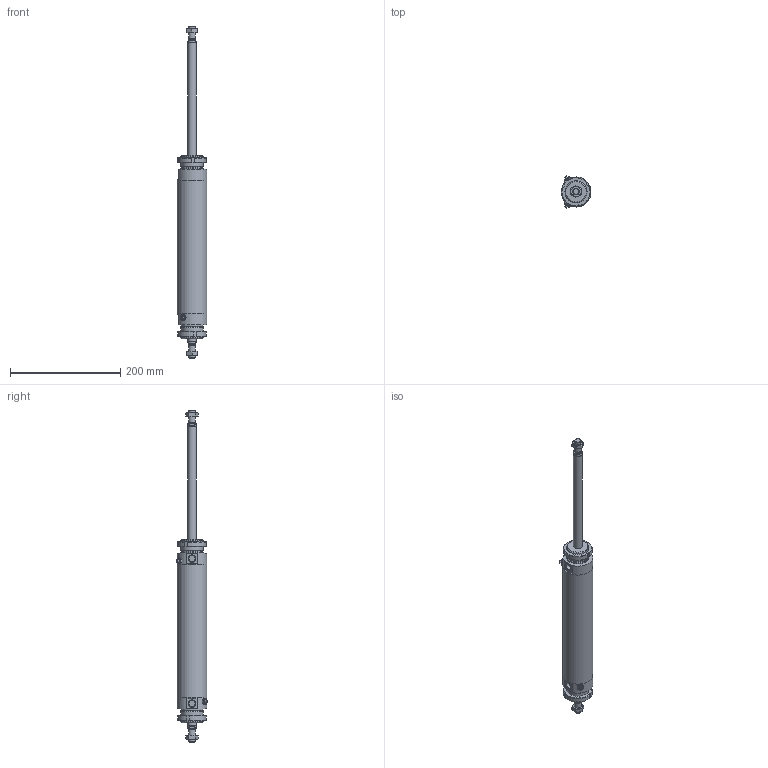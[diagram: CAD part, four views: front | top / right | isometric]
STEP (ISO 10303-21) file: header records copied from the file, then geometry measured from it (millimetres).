
FILE_DESCRIPTION(/* description */ (''),/* implementation_level */ '2;1');
FILE_NAME(/* name */ 'I:\Area Tecnica\Documenti\A-Manieri\_Inventor\12X\12X#S_###_####_#_#\12XDS_050_0200_#_#.stp',/* time_stamp */ '2015-05-13T08:20:38+02:00',/* author */ ('maniean1'),/* organization */ ('Pneumax S.p.A.'),/* preprocessor_version */ 'ST-DEVELOPER v15.2',/* originating_system */ 'Autodesk Inventor 2014',/* authorisation */ '');
FILE_SCHEMA (('AUTOMOTIVE_DESIGN { 1 0 10303 214 3 1 1 }'));
Length unit declared in the file: millimetre
Products named in the file (6): C1250_619-0200; 12X50_606; SP12X50_0200; 12X_50_11; G12X_050_05; 12XDS_050_0200_#_#
Bounding box: 54 x 57.75 x 602 mm (x, y, z)
Volume: 424821.9 mm3; surface area: 154810.9 mm2
Topology: 8 solids, 8 shells, 151 faces, 345 edges, 222 vertices
Faces by surface type: plane 78, cylinder 37, cone 34, torus 2
Full cylindrical faces by diameter (mm): 5 x2, 10.2 x2, 11 x2, 11.4 x2, 12 x4, 14 x2, 15.6 x2, 16 x2, 38.2 x2, 40 x6, 50 x2, 54 x3
Entity records: 2556 total; most frequent: CARTESIAN_POINT 505, DIRECTION 428, ORIENTED_EDGE 342, AXIS2_PLACEMENT_3D 182, EDGE_CURVE 171, EDGE_LOOP 144, VERTEX_POINT 129, ADVANCED_FACE 94
